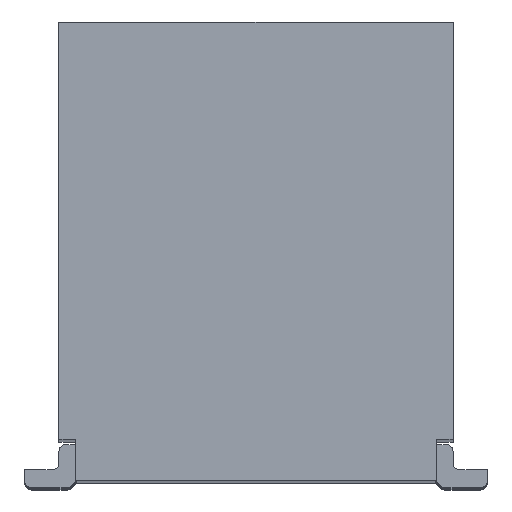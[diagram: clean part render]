
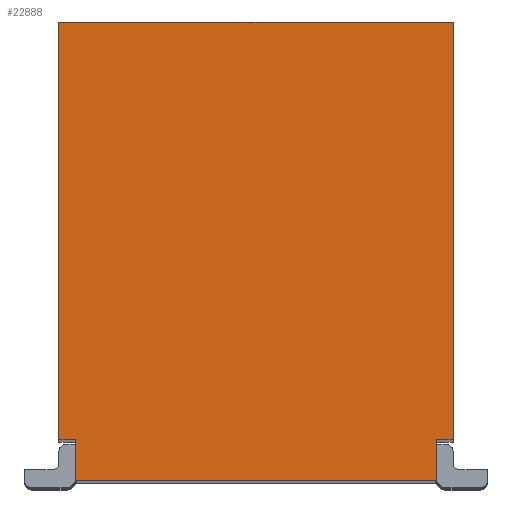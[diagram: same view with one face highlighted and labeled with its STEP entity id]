
A CAD part, top view. The second image highlights one B-rep face of the part: STEP entity #22888.
In plain terms, the highlighted planar face has unit normal (0, 0, 1).
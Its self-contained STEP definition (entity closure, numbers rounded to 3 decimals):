
#751 = DIRECTION ( 'NONE',  ( 0., 1., 0. ) ) ;
#1124 = ORIENTED_EDGE ( 'NONE', *, *, #23148, .T. ) ;
#2460 = DIRECTION ( 'NONE',  ( 0., 1., 0. ) ) ;
#2650 = CARTESIAN_POINT ( 'NONE',  ( -1.44, -0.1, 13.185 ) ) ;
#2902 = VECTOR ( 'NONE', #2460, 1000. ) ;
#3260 = LINE ( 'NONE', #19474, #34592 ) ;
#4544 = VECTOR ( 'NONE', #751, 1000. ) ;
#4563 = DIRECTION ( 'NONE',  ( 0., 0., 1. ) ) ;
#5257 = CARTESIAN_POINT ( 'NONE',  ( 0., -1.1, 13.185 ) ) ;
#5291 = VECTOR ( 'NONE', #24800, 1000. ) ;
#5435 = LINE ( 'NONE', #9119, #22403 ) ;
#5596 = CARTESIAN_POINT ( 'NONE',  ( 1.32, -3.15, 13.185 ) ) ;
#6014 = ORIENTED_EDGE ( 'NONE', *, *, #24921, .T. ) ;
#6033 = CARTESIAN_POINT ( 'NONE',  ( -1.44, -21.25, 13.185 ) ) ;
#6114 = EDGE_CURVE ( 'NONE', #16202, #20151, #5435, .T. ) ;
#6301 = CARTESIAN_POINT ( 'NONE',  ( 1.32, -3.15, 13.185 ) ) ;
#6577 = CARTESIAN_POINT ( 'NONE',  ( 1.35, -3.15, 13.185 ) ) ;
#7372 = VERTEX_POINT ( 'NONE', #8607 ) ;
#7854 = ORIENTED_EDGE ( 'NONE', *, *, #30222, .T. ) ;
#8607 = CARTESIAN_POINT ( 'NONE',  ( 1.32, -3.45, 13.185 ) ) ;
#8723 = DIRECTION ( 'NONE',  ( 1., 0., 0. ) ) ;
#8971 = EDGE_LOOP ( 'NONE', ( #9630, #12164, #31461, #21352, #24748, #7854, #1124, #6014 ) ) ;
#9119 = CARTESIAN_POINT ( 'NONE',  ( -1.32, -3.155, 13.185 ) ) ;
#9630 = ORIENTED_EDGE ( 'NONE', *, *, #19965, .T. ) ;
#11249 = DIRECTION ( 'NONE',  ( 1., 0., 0. ) ) ;
#11862 = LINE ( 'NONE', #6577, #28287 ) ;
#12164 = ORIENTED_EDGE ( 'NONE', *, *, #29151, .F. ) ;
#12201 = EDGE_CURVE ( 'NONE', #16872, #16202, #11862, .T. ) ;
#12496 = DIRECTION ( 'NONE',  ( 0., -1., 0. ) ) ;
#13258 = CARTESIAN_POINT ( 'NONE',  ( -1.44, -3.15, 13.185 ) ) ;
#15248 = CARTESIAN_POINT ( 'NONE',  ( -1.32, -3.15, 13.185 ) ) ;
#15457 = CARTESIAN_POINT ( 'NONE',  ( 1.44, -0.1, 13.185 ) ) ;
#15821 = DIRECTION ( 'NONE',  ( 1., 0., 0. ) ) ;
#16202 = VERTEX_POINT ( 'NONE', #15248 ) ;
#16574 = EDGE_CURVE ( 'NONE', #16872, #34579, #22099, .T. ) ;
#16872 = VERTEX_POINT ( 'NONE', #13258 ) ;
#19474 = CARTESIAN_POINT ( 'NONE',  ( 1.35, -3.15, 13.185 ) ) ;
#19965 = EDGE_CURVE ( 'NONE', #29648, #30894, #26943, .T. ) ;
#20151 = VERTEX_POINT ( 'NONE', #27336 ) ;
#21352 = ORIENTED_EDGE ( 'NONE', *, *, #12201, .T. ) ;
#22099 = LINE ( 'NONE', #6033, #4544 ) ;
#22286 = VECTOR ( 'NONE', #11249, 1000. ) ;
#22403 = VECTOR ( 'NONE', #32620, 1000. ) ;
#22888 = ADVANCED_FACE ( 'NONE', ( #23625 ), #28742, .T. ) ;
#23148 = EDGE_CURVE ( 'NONE', #7372, #30436, #26630, .T. ) ;
#23625 = FACE_OUTER_BOUND ( 'NONE', #8971, .T. ) ;
#24748 = ORIENTED_EDGE ( 'NONE', *, *, #6114, .T. ) ;
#24800 = DIRECTION ( 'NONE',  ( 0., 1., 0. ) ) ;
#24921 = EDGE_CURVE ( 'NONE', #30436, #29648, #3260, .T. ) ;
#26630 = LINE ( 'NONE', #5596, #2902 ) ;
#26943 = LINE ( 'NONE', #32753, #5291 ) ;
#27336 = CARTESIAN_POINT ( 'NONE',  ( -1.32, -3.45, 13.185 ) ) ;
#27672 = CARTESIAN_POINT ( 'NONE',  ( -1.47, -0.1, 13.185 ) ) ;
#28287 = VECTOR ( 'NONE', #30954, 1000. ) ;
#28539 = LINE ( 'NONE', #29249, #29677 ) ;
#28742 = PLANE ( 'NONE',  #29939 ) ;
#29151 = EDGE_CURVE ( 'NONE', #34579, #30894, #32798, .T. ) ;
#29249 = CARTESIAN_POINT ( 'NONE',  ( -0.127, -3.45, 13.185 ) ) ;
#29648 = VERTEX_POINT ( 'NONE', #33942 ) ;
#29677 = VECTOR ( 'NONE', #15821, 1000. ) ;
#29939 = AXIS2_PLACEMENT_3D ( 'NONE', #5257, #4563, #12496 ) ;
#30222 = EDGE_CURVE ( 'NONE', #20151, #7372, #28539, .T. ) ;
#30436 = VERTEX_POINT ( 'NONE', #6301 ) ;
#30894 = VERTEX_POINT ( 'NONE', #15457 ) ;
#30954 = DIRECTION ( 'NONE',  ( 1., 0., 0. ) ) ;
#31461 = ORIENTED_EDGE ( 'NONE', *, *, #16574, .F. ) ;
#32620 = DIRECTION ( 'NONE',  ( 0., -1., 0. ) ) ;
#32753 = CARTESIAN_POINT ( 'NONE',  ( 1.44, -21.25, 13.185 ) ) ;
#32798 = LINE ( 'NONE', #27672, #22286 ) ;
#33942 = CARTESIAN_POINT ( 'NONE',  ( 1.44, -3.15, 13.185 ) ) ;
#34579 = VERTEX_POINT ( 'NONE', #2650 ) ;
#34592 = VECTOR ( 'NONE', #8723, 1000. ) ;
